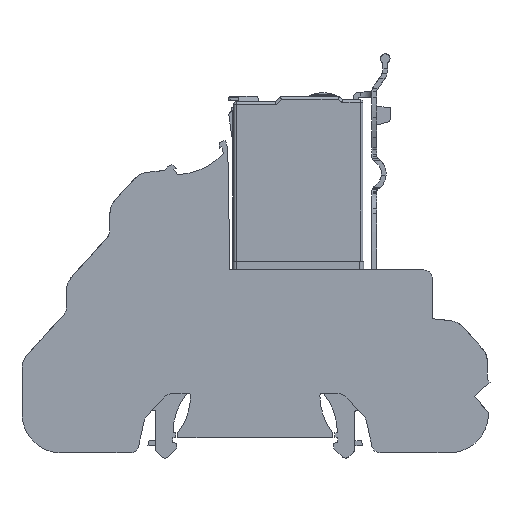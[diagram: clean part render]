
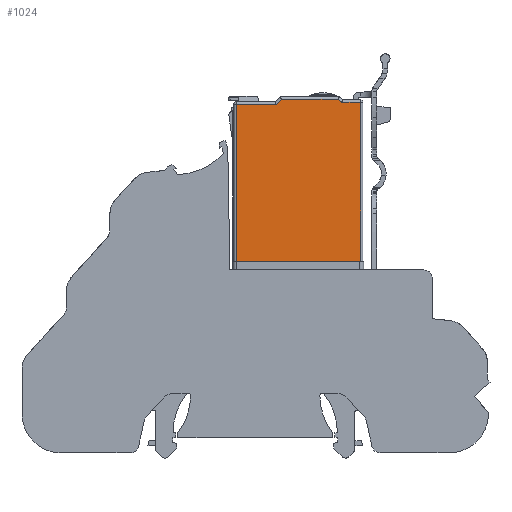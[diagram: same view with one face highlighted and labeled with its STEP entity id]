
A CAD part, left-side view. The second image highlights one B-rep face of the part: STEP entity #1024.
In plain terms, the highlighted planar face has unit normal (-1, 0, 0).
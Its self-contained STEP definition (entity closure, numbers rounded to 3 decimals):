
#254 = CARTESIAN_POINT ( 'NONE',  ( 0.8, 43.579, 75.013 ) ) ;
#509 = VERTEX_POINT ( 'NONE', #32462 ) ;
#531 = VERTEX_POINT ( 'NONE', #254 ) ;
#606 = EDGE_CURVE ( 'NONE', #18305, #509, #9198, .T. ) ;
#843 = CARTESIAN_POINT ( 'NONE',  ( 0.8, 27.036, 1.313 ) ) ;
#1024 = ADVANCED_FACE ( 'NONE', ( #10660 ), #25708, .F. ) ;
#1973 = VECTOR ( 'NONE', #9481, 1000. ) ;
#2304 = DIRECTION ( 'NONE',  ( 0., 0.707, 0.707 ) ) ;
#3049 = EDGE_CURVE ( 'NONE', #509, #12654, #23693, .T. ) ;
#3201 = DIRECTION ( 'NONE',  ( 0., 0., -1. ) ) ;
#3233 = DIRECTION ( 'NONE',  ( 0., 0., -1. ) ) ;
#3743 = ORIENTED_EDGE ( 'NONE', *, *, #5054, .T. ) ;
#4639 = EDGE_LOOP ( 'NONE', ( #12164, #11485, #23498, #29310, #18559, #3743, #36977, #35914 ) ) ;
#5054 = EDGE_CURVE ( 'NONE', #531, #7595, #17602, .T. ) ;
#5806 = CARTESIAN_POINT ( 'NONE',  ( 0.8, 53.036, 41.113 ) ) ;
#6542 = LINE ( 'NONE', #36236, #1973 ) ;
#7388 = EDGE_CURVE ( 'NONE', #19110, #531, #21120, .T. ) ;
#7595 = VERTEX_POINT ( 'NONE', #8402 ) ;
#7637 = VECTOR ( 'NONE', #23400, 1000. ) ;
#7945 = LINE ( 'NONE', #29230, #35047 ) ;
#8402 = CARTESIAN_POINT ( 'NONE',  ( 0.8, 44.679, 73.913 ) ) ;
#9198 = LINE ( 'NONE', #843, #10915 ) ;
#9481 = DIRECTION ( 'NONE',  ( 0., 1., 0. ) ) ;
#10660 = FACE_OUTER_BOUND ( 'NONE', #4639, .T. ) ;
#10915 = VECTOR ( 'NONE', #15435, 1000. ) ;
#10953 = CARTESIAN_POINT ( 'NONE',  ( 0.8, 53.036, 73.913 ) ) ;
#11475 = LINE ( 'NONE', #19910, #7637 ) ;
#11485 = ORIENTED_EDGE ( 'NONE', *, *, #606, .T. ) ;
#11546 = CARTESIAN_POINT ( 'NONE',  ( 0.8, 30.993, 74.313 ) ) ;
#11587 = DIRECTION ( 'NONE',  ( 1., 0., 0. ) ) ;
#12164 = ORIENTED_EDGE ( 'NONE', *, *, #35149, .F. ) ;
#12513 = CARTESIAN_POINT ( 'NONE',  ( 0.8, 41.035, 75.013 ) ) ;
#12654 = VERTEX_POINT ( 'NONE', #11546 ) ;
#14906 = CARTESIAN_POINT ( 'NONE',  ( 0.8, 41.035, 74.313 ) ) ;
#15122 = CARTESIAN_POINT ( 'NONE',  ( 0.8, 41.035, 1.313 ) ) ;
#15435 = DIRECTION ( 'NONE',  ( 0., 0., 1. ) ) ;
#15663 = LINE ( 'NONE', #17992, #21224 ) ;
#17227 = DIRECTION ( 'NONE',  ( 0., 0.707, -0.707 ) ) ;
#17602 = LINE ( 'NONE', #31899, #38294 ) ;
#17754 = CARTESIAN_POINT ( 'NONE',  ( 0.8, 27.036, 41.113 ) ) ;
#17992 = CARTESIAN_POINT ( 'NONE',  ( 0.8, 53.036, 1.313 ) ) ;
#18305 = VERTEX_POINT ( 'NONE', #17754 ) ;
#18559 = ORIENTED_EDGE ( 'NONE', *, *, #7388, .T. ) ;
#18898 = VERTEX_POINT ( 'NONE', #10953 ) ;
#19110 = VERTEX_POINT ( 'NONE', #19122 ) ;
#19122 = CARTESIAN_POINT ( 'NONE',  ( 0.8, 31.693, 75.013 ) ) ;
#19910 = CARTESIAN_POINT ( 'NONE',  ( 0.8, 41.035, 73.913 ) ) ;
#20094 = EDGE_CURVE ( 'NONE', #18898, #27819, #15663, .T. ) ;
#21120 = LINE ( 'NONE', #12513, #27409 ) ;
#21224 = VECTOR ( 'NONE', #3201, 1000. ) ;
#21353 = DIRECTION ( 'NONE',  ( 0., 1., 0. ) ) ;
#21517 = EDGE_CURVE ( 'NONE', #7595, #18898, #11475, .T. ) ;
#22466 = EDGE_CURVE ( 'NONE', #12654, #19110, #7945, .T. ) ;
#23400 = DIRECTION ( 'NONE',  ( 0., 1., 0. ) ) ;
#23498 = ORIENTED_EDGE ( 'NONE', *, *, #3049, .T. ) ;
#23693 = LINE ( 'NONE', #14906, #25715 ) ;
#25708 = PLANE ( 'NONE',  #28458 ) ;
#25715 = VECTOR ( 'NONE', #21353, 1000. ) ;
#27409 = VECTOR ( 'NONE', #33038, 1000. ) ;
#27819 = VERTEX_POINT ( 'NONE', #5806 ) ;
#28458 = AXIS2_PLACEMENT_3D ( 'NONE', #15122, #11587, #3233 ) ;
#29230 = CARTESIAN_POINT ( 'NONE',  ( 0.8, -0.486, 42.833 ) ) ;
#29310 = ORIENTED_EDGE ( 'NONE', *, *, #22466, .T. ) ;
#31899 = CARTESIAN_POINT ( 'NONE',  ( 0.8, 79.157, 39.435 ) ) ;
#32462 = CARTESIAN_POINT ( 'NONE',  ( 0.8, 27.036, 74.313 ) ) ;
#33038 = DIRECTION ( 'NONE',  ( 0., 1., 0. ) ) ;
#35047 = VECTOR ( 'NONE', #2304, 1000. ) ;
#35149 = EDGE_CURVE ( 'NONE', #18305, #27819, #6542, .T. ) ;
#35914 = ORIENTED_EDGE ( 'NONE', *, *, #20094, .T. ) ;
#36236 = CARTESIAN_POINT ( 'NONE',  ( 0.8, 26.536, 41.113 ) ) ;
#36977 = ORIENTED_EDGE ( 'NONE', *, *, #21517, .T. ) ;
#38294 = VECTOR ( 'NONE', #17227, 1000. ) ;
